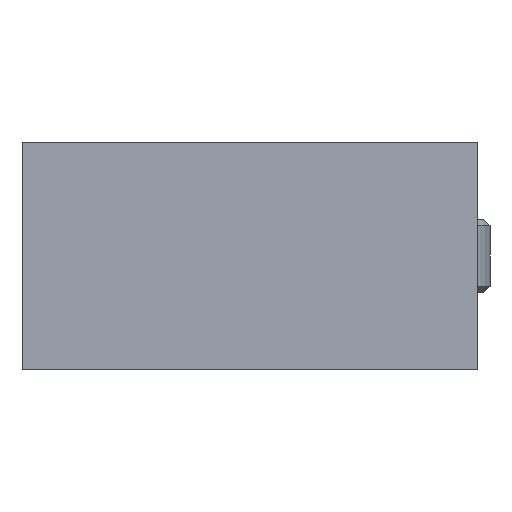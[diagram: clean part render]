
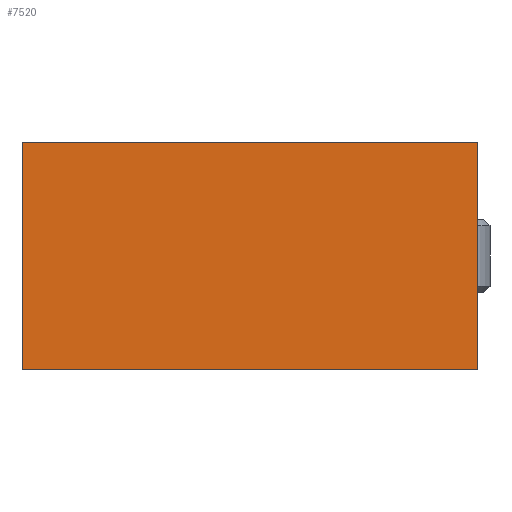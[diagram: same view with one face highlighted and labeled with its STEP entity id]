
A CAD part, left-side view. The second image highlights one B-rep face of the part: STEP entity #7520.
In plain terms, the highlighted planar face has unit normal (-1, 0, 0).
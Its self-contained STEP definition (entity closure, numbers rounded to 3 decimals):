
#1670 = LINE ( 'NONE', #1671, #1672 ) ;
#1671 = CARTESIAN_POINT ( 'NONE',  ( 0., -18., -9. ) ) ;
#1672 = VECTOR ( 'NONE', #1673, 1000. ) ;
#1673 = DIRECTION ( 'NONE',  ( 0., -1., 0. ) ) ;
#1787 = CARTESIAN_POINT ( 'NONE',  ( 0., 18., -9. ) ) ;
#1888 = CARTESIAN_POINT ( 'NONE',  ( 0., -18., -9. ) ) ;
#2943 = LINE ( 'NONE', #2944, #2945 ) ;
#2944 = CARTESIAN_POINT ( 'NONE',  ( 0., -18., 0. ) ) ;
#2945 = VECTOR ( 'NONE', #2946, 1000. ) ;
#2946 = DIRECTION ( 'NONE',  ( 0., 0., -1. ) ) ;
#3103 = CARTESIAN_POINT ( 'NONE',  ( 0., -18., 9. ) ) ;
#3202 = FACE_OUTER_BOUND ( 'NONE', #7844, .T. ) ;
#3203 = PLANE ( 'NONE',  #3204 ) ;
#3204 = AXIS2_PLACEMENT_3D ( 'NONE', #3205, #3206, #3207 ) ;
#3205 = CARTESIAN_POINT ( 'NONE',  ( 0., -18., 0. ) ) ;
#3206 = DIRECTION ( 'NONE',  ( -1., 0., 0. ) ) ;
#3207 = DIRECTION ( 'NONE',  ( 0., -1., 0. ) ) ;
#3728 = LINE ( 'NONE', #3729, #3730 ) ;
#3729 = CARTESIAN_POINT ( 'NONE',  ( 0., 1.474, 9. ) ) ;
#3730 = VECTOR ( 'NONE', #3731, 1000. ) ;
#3731 = DIRECTION ( 'NONE',  ( 0., -1., 0. ) ) ;
#4447 = LINE ( 'NONE', #4450, #4451 ) ;
#4450 = CARTESIAN_POINT ( 'NONE',  ( 0., 18., 0. ) ) ;
#4451 = VECTOR ( 'NONE', #4452, 1000. ) ;
#4452 = DIRECTION ( 'NONE',  ( 0., 0., -1. ) ) ;
#4817 = EDGE_CURVE ( 'NONE', #5074, #5271, #1670, .T. ) ;
#5074 = VERTEX_POINT ( 'NONE', #1787 ) ;
#5271 = VERTEX_POINT ( 'NONE', #1888 ) ;
#5388 = ORIENTED_EDGE ( 'NONE', *, *, #8119, .T. ) ;
#6328 = CARTESIAN_POINT ( 'NONE',  ( 0., 18., 9. ) ) ;
#6336 = ORIENTED_EDGE ( 'NONE', *, *, #4817, .T. ) ;
#6815 = ORIENTED_EDGE ( 'NONE', *, *, #7153, .F. ) ;
#7153 = EDGE_CURVE ( 'NONE', #7405, #5271, #2943, .T. ) ;
#7405 = VERTEX_POINT ( 'NONE', #3103 ) ;
#7520 = ADVANCED_FACE ( 'NONE', ( #3202 ), #3203, .T. ) ;
#7844 = EDGE_LOOP ( 'NONE', ( #6336, #6815, #7845, #5388 ) ) ;
#7845 = ORIENTED_EDGE ( 'NONE', *, *, #7972, .F. ) ;
#7972 = EDGE_CURVE ( 'NONE', #8845, #7405, #3728, .T. ) ;
#8119 = EDGE_CURVE ( 'NONE', #8845, #5074, #4447, .T. ) ;
#8845 = VERTEX_POINT ( 'NONE', #6328 ) ;
